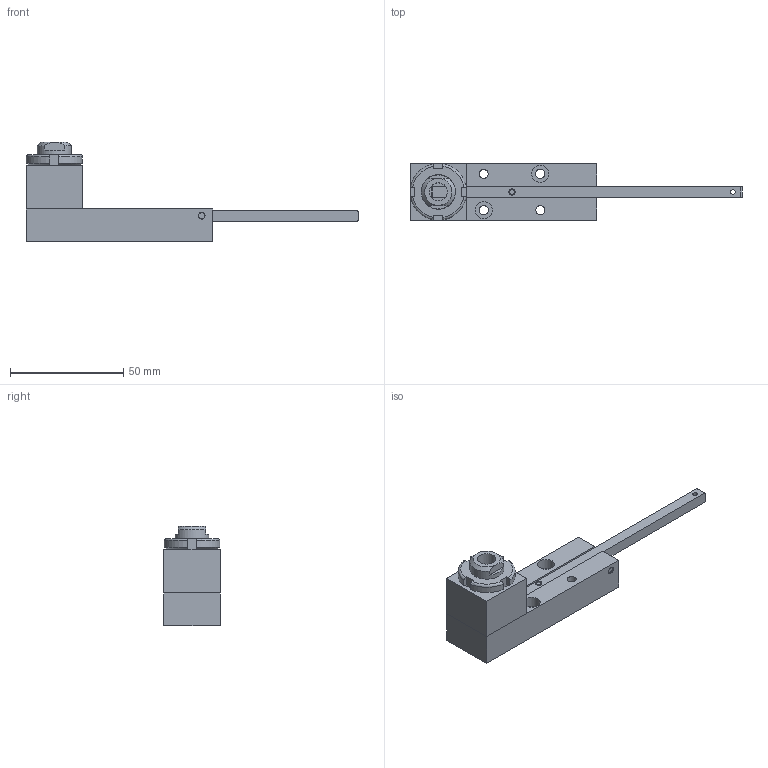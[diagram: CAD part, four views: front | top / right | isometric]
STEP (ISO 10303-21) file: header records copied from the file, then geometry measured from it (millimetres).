
FILE_DESCRIPTION(/* description */ ('','CAx-IF Rec.Pracs.---Representation and Presentation of Product Manufacturing Information (PMI)---3.8---2014-02-18'),/* implementation_level */ '2;1');
FILE_NAME(/* name */ 'E:\Users\CAD5\sito AP\scarica_file\3d\183_00.stp',/* time_stamp */ '2016-08-30T09:07:25+02:00',/* author */ ('CAD5'),/* organization */ (''),/* preprocessor_version */ 'ST-DEVELOPER v16.1',/* originating_system */ 'Autodesk Inventor 2016',/* authorisation */ '0 mm^3');
FILE_SCHEMA (('AP242_MANAGED_MODEL_BASED_3D_ENGINEERING_MIM_LF { 1 0 10303 442 1 1 4 }'));
Length unit declared in the file: millimetre
Products named in the file (9): 182.02; 182.01; 03.56; Ghiera SKF M15x1 KM_2; ISO 2338 - 3  x 24 - A; UNI 5931 - M 4 x  16 - 0,7 - 13,9; D10320; 183.02; 18x.00
Assembly tree (11 placements, depth 2):
  18x.00
    182.02
    182.01
    03.56
    Ghiera SKF M15x1 KM_2
    ISO 2338 - 3  x 24 - A
    UNI 5931 - M 4 x  16 - 0,7 - 13,9  x4
    D10320
    183.02
Bounding box: 146.5 x 25 x 44 mm (x, y, z)
Volume: 40777.4 mm3; surface area: 22327.8 mm2
Topology: 11 solids, 11 shells, 185 faces, 438 edges, 284 vertices
Faces by surface type: plane 94, cylinder 50, cone 23, torus 18
Full cylindrical faces by diameter (mm): 2.013 x1, 2.3 x1, 2.7 x1, 3 x6, 3.242 x4, 4 x6, 4.1 x6, 7 x4, 7.5 x6, 8 x1, 13.917 x1, 15 x2
Entity records: 4132 total; most frequent: CARTESIAN_POINT 854, DIRECTION 670, ORIENTED_EDGE 544, AXIS2_PLACEMENT_3D 276, EDGE_CURVE 272, EDGE_LOOP 230, VERTEX_POINT 206, FACE_OUTER_BOUND 140
